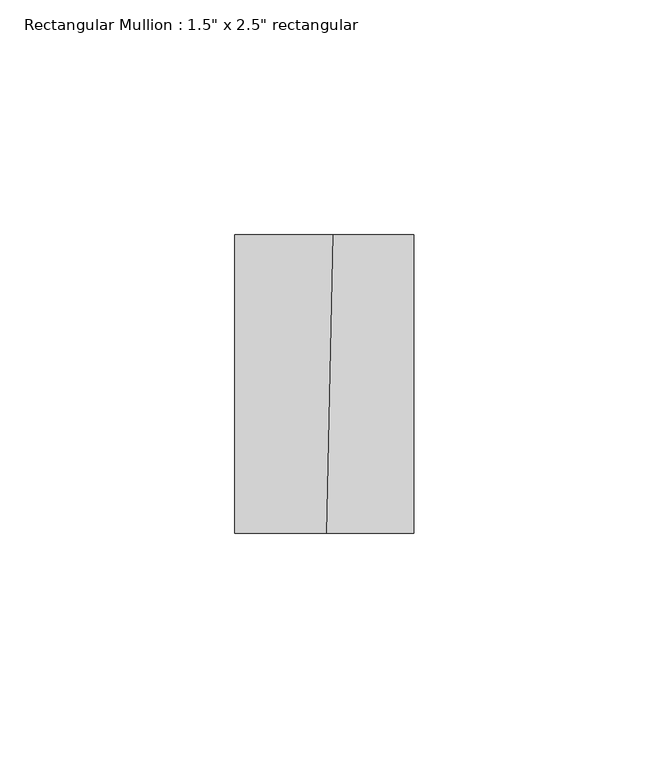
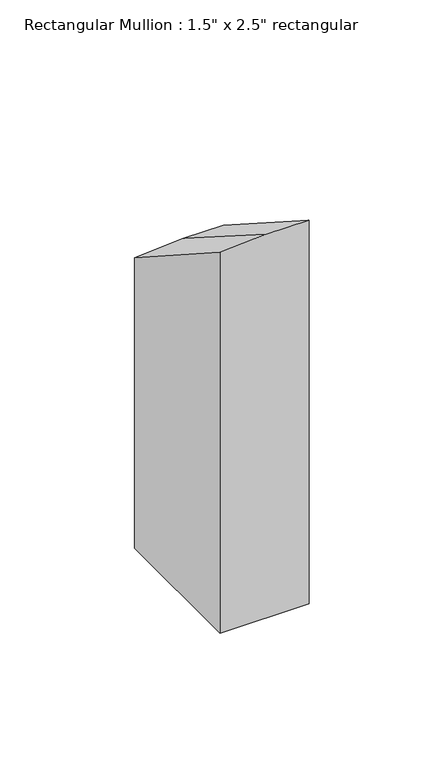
"""IFC4 building model written with IfcOpenShell, lengths in millimetres: member geometry."""

from ifc_helpers import new_model, si_unit, origin, place, context, project, spatial, faceted_brep, source, transform, mapped, element, save


def member_3b901554(model_context):
    return source(origin(), model_context, "Body", "Brep", [
        faceted_brep([(19.05, 31.75, -191.2336225), (19.05, -31.75, -191.2336225), (-19.05, -31.75, -191.2336225), (-19.05, 31.75, -191.2336225), (-19.05, 31.75, -59.6563558), (1.9001927, 31.75, -58.1332292), (19.05, 31.75, -58.2571239), (-19.05, -31.75, -18.7758618), (19.05, -31.75, -17.4831788), (0.5671057, -31.75, -17.3496536)], [[[0, 1, 2, 3]], [[4, 5, 6, 0, 3]], [[7, 4, 3, 2]], [[8, 9, 7, 2, 1]], [[6, 8, 1, 0]], [[6, 5, 9, 8]], [[5, 4, 7, 9]]]),
    ])


if __name__ == "__main__":
    model = new_model("IFC4")
    model_context = context("Model", 3, world=origin())
    ifc_project = project(units=[si_unit("LENGTHUNIT", "METRE", prefix="MILLI")], contexts=[model_context])
    site = spatial("IfcSite", under=ifc_project)
    building = spatial("IfcBuilding", under=site)
    placement = place(None, origin())
    member_shape = member_3b901554(model_context)
    element("IfcMember", 1, ObjectType="Rectangular Mullion : 1.5\" x 2.5\" rectangular", at=placement, inside=building, context=model_context, shape_type="MappedRepresentation", body=[
        mapped(member_shape, transform((0.0, 0.0, 0.0), x_axis=(1.0, 0.0, 0.0), y_axis=(0.0, 1.0, 0.0), z_axis=(0.0, 0.0, 1.0))),
    ])
    save(model, "model.ifc")
